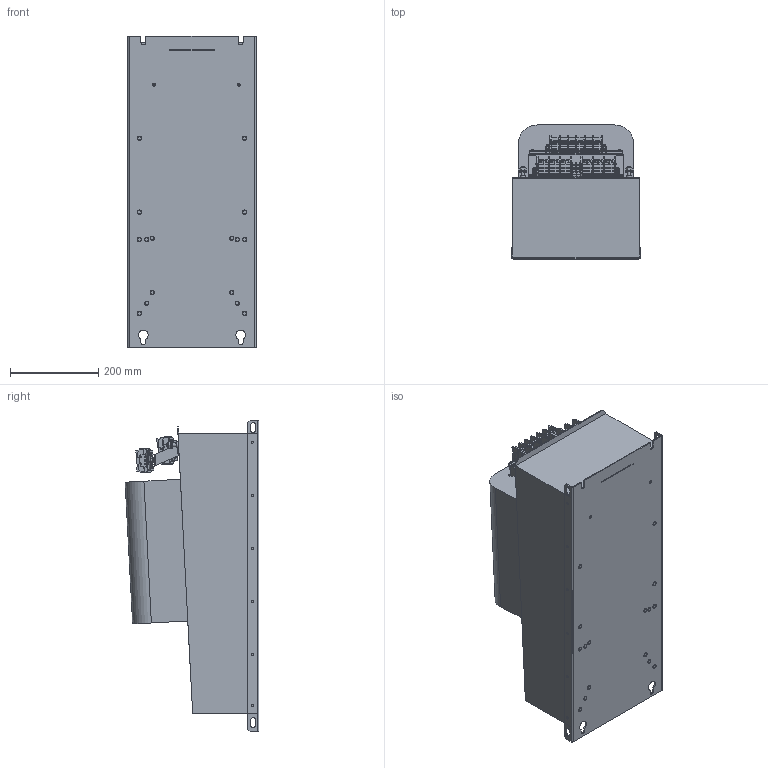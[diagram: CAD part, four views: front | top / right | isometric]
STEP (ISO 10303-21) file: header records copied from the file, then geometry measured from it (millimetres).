
FILE_DESCRIPTION((''),'2;1');
FILE_NAME('C:\SapWorkDir\Inventor\P01\E\EcosineEVO-EnL-E0XXJXX.stp','2016-09-30T10:28:13',('erika.jenzer'),(''),'Autodesk Inventor 2013','Autodesk Inventor 2013','');
FILE_SCHEMA(('AUTOMOTIVE_DESIGN { 1 0 10303 214 1 1 1 1 }'));
Length unit declared in the file: millimetre
Products named in the file (24): EcosineEVO-EnL-E0XXJXX1; 153080_BASE PLATE E WITH INSERTS; 152962_BASE PLATE E; 112661_INSERT BOLT FH M8X18; 112624_INSERT BOLT FH M5X12; 153081_HOUSING E WITH INSERTS; 112610_INSERT NUT SS M8; 155024_TERMINAL MODULE EF; 159596_RAIL WITH INSERTS; 155023_DIN RAIL TH35-7.5 EF; 153988_DKB10; 156473_END COVER DKB10E; 154141_DKB 100; 156476_END COVER DKB100E-A; 160161_SS9B; 155034_TERMINAL SUPPORT EF WITH INSERTS; 155032_TERMINAL SUPPORT EF; 155036_TDJ MODULE EF; 154836_DIN RAIL TH35-7.5 EF-J; 153992_DKB 60; 156474_END COVER DKB60E-A; 122854_EARTH SCREW M 8 X 30 MM; DIN EN 1661 M5; 163273_GLORIA E STP DUMMY
Assembly tree (62 placements, depth 4):
  EcosineEVO-EnL-E0XXJXX1
    153080_BASE PLATE E WITH INSERTS
      152962_BASE PLATE E
      112661_INSERT BOLT FH M8X18  x16
      112624_INSERT BOLT FH M5X12  x2
    153081_HOUSING E WITH INSERTS
      112610_INSERT NUT SS M8  x2
    155024_TERMINAL MODULE EF
      159596_RAIL WITH INSERTS
        155023_DIN RAIL TH35-7.5 EF
        112624_INSERT BOLT FH M5X12  x3
      153988_DKB10  x2
      156473_END COVER DKB10E
      154141_DKB 100  x6
      156476_END COVER DKB100E-A  x2
      160161_SS9B  x2
    155034_TERMINAL SUPPORT EF WITH INSERTS
      155032_TERMINAL SUPPORT EF
      112624_INSERT BOLT FH M5X12  x2
    155036_TDJ MODULE EF
      154836_DIN RAIL TH35-7.5 EF-J
      153992_DKB 60  x6
      156474_END COVER DKB60E-A
      160161_SS9B  x2
    122854_EARTH SCREW M 8 X 30 MM  x2
    DIN EN 1661 M5  x2
    163273_GLORIA E STP DUMMY
Bounding box: 290 x 302.38 x 705 mm (x, y, z)
Volume: 41304385.9 mm3; surface area: 1531353 mm2
Topology: 60 solids, 60 shells, 4630 faces, 12534 edges, 8208 vertices
Faces by surface type: plane 3095, cylinder 1150, cone 179, bspline 84, torus 66, sphere 32, revolution 24
Full cylindrical faces by diameter (mm): 1.5 x16, 2.9 x4, 3.2 x8, 3.7 x4, 4 x32, 4.134 x2, 4.2 x21, 5 x18, 5.1 x12, 5.5 x5, 6 x4, 6.206 x7, 6.5 x11, 6.647 x2, 7 x12, 7.132 x12, 7.2 x12, 7.3 x6, 7.323 x2, 8 x38, 8.4 x2, 9 x2, 9.275 x16, 9.8 x16, 10 x12, 10.698 x12, 11.286 x2, 11.4 x2, 12.65 x2, 16 x2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
Entity records: 46099 total; most frequent: CARTESIAN_POINT 9743, DIRECTION 7245, ORIENTED_EDGE 7196, EDGE_CURVE 3598, VECTOR 2569, LINE 2569, VERTEX_POINT 2438, AXIS2_PLACEMENT_3D 2336
